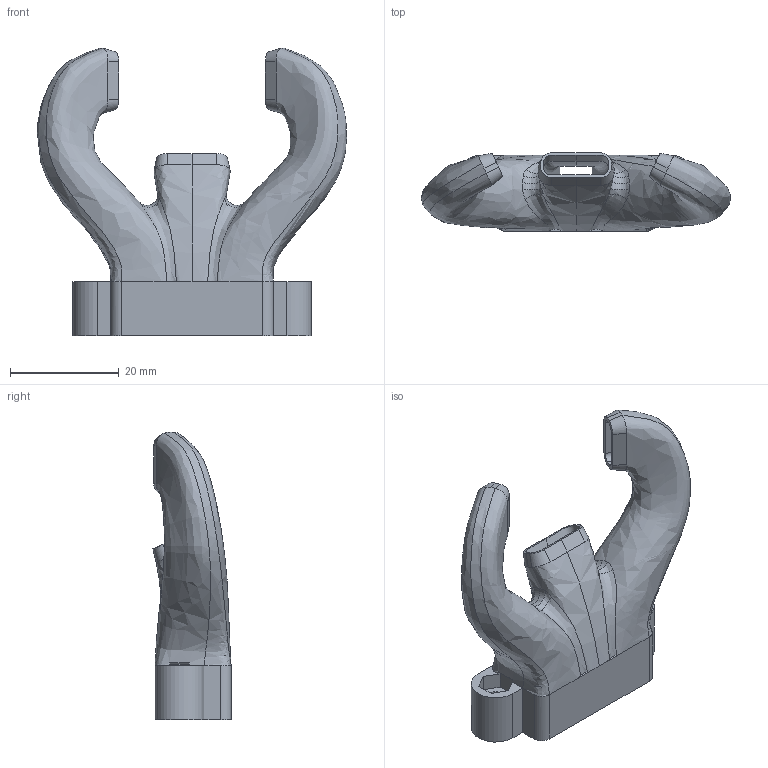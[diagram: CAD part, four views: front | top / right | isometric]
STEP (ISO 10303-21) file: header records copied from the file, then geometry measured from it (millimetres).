
FILE_DESCRIPTION(/* description */ (''),/* implementation_level */ '2;1');
FILE_NAME(/* name */ 'Trihorn BugBu Duct v1.step',/* time_stamp */ '2023-03-23T06:41:51-06:00',/* author */ (''),/* organization */ (''),/* preprocessor_version */ 'ST-DEVELOPER v19.2',/* originating_system */ 'Autodesk Translation Framework v11.17.0.187',/* authorisation */ '');
FILE_SCHEMA (('AUTOMOTIVE_DESIGN { 1 0 10303 214 3 1 1 }'));
Products named in the file (2): Trihorn BugBu Duct; TriHorn - TriHorn Duct High Narrow v1
Assembly tree (1 placements, depth 2):
  Trihorn BugBu Duct
    TriHorn - TriHorn Duct High Narrow v1
Bounding box: 56.97 x 14.39 x 53 mm (x, y, z)
Volume: 5909.7 mm3; surface area: 10128.8 mm2
Topology: 1 solids, 1 shells, 117 faces, 342 edges, 225 vertices
Faces by surface type: plane 56, bspline 55, cylinder 6
Full cylindrical faces by diameter (mm): 3.3 x2
Entity records: 40622 total; most frequent: CARTESIAN_POINT 37908, ORIENTED_EDGE 680, DIRECTION 343, EDGE_CURVE 340, VERTEX_POINT 225, LINE 165, VECTOR 165, B_SPLINE_CURVE_WITH_KNOTS 151
